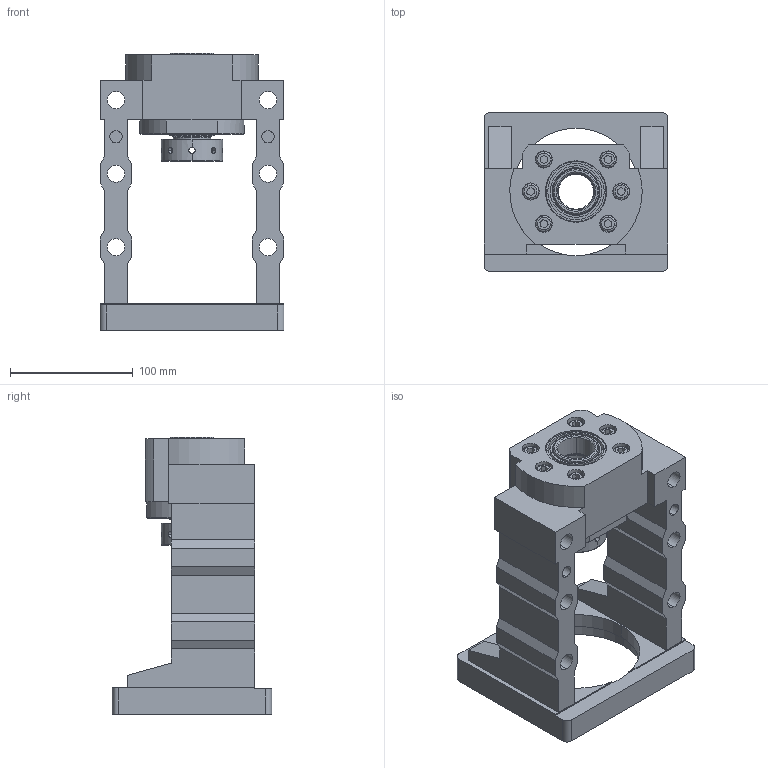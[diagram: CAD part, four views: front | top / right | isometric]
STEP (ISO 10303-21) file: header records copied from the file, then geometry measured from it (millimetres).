
FILE_DESCRIPTION (( 'STEP AP203' ), '1' );
FILE_NAME ('MBCF30W-G²Õ¦X¥ó.STEP', '2022-11-01T06:09:47', ( '' ), ( '' ), 'SwSTEP 2.0', 'SolidWorks 2018', '' );
FILE_SCHEMA (( 'CONFIG_CONTROL_DESIGN' ));
Length unit declared in the file: millimetre
Products named in the file (1): MBCF30W-G組合件
Bounding box: 150 x 130 x 226 mm (x, y, z)
Surface area: 194027.8 mm2 (no closed solid volume)
Topology: 0 solids, 21 shells, 355 faces, 981 edges, 645 vertices
Faces by surface type: plane 135, cylinder 122, cone 64, torus 24, bspline 10
Entity records: 25768 total; most frequent: CARTESIAN_POINT 16712, DIRECTION 1908, ORIENTED_EDGE 1737, EDGE_CURVE 973, AXIS2_PLACEMENT_3D 721, VERTEX_POINT 645, LINE 466, VECTOR 466
